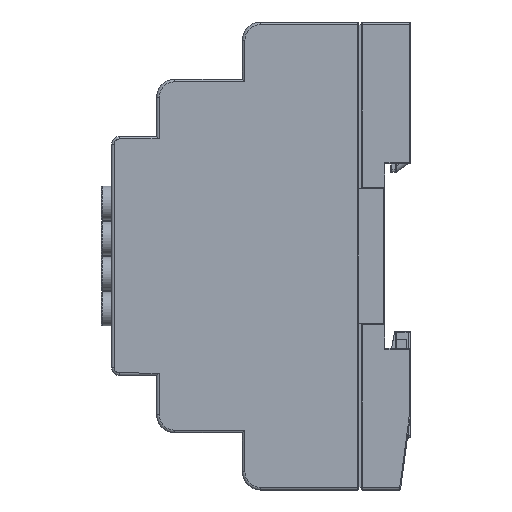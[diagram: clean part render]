
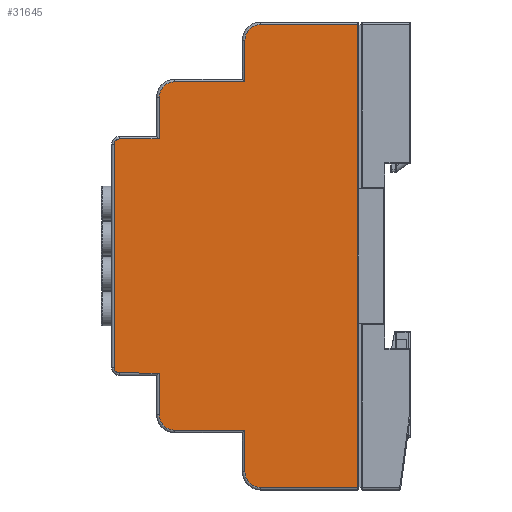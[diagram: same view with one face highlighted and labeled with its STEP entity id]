
A CAD part, left-side view. The second image highlights one B-rep face of the part: STEP entity #31645.
In plain terms, the highlighted planar face has unit normal (-1, 0, 0).
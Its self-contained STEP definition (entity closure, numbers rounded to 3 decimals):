
#374 = CARTESIAN_POINT ( 'NONE',  ( 0., 18.9, -86.5 ) ) ;
#771 = EDGE_CURVE ( 'NONE', #32055, #44207, #1587, .T. ) ;
#1168 = EDGE_CURVE ( 'NONE', #3489, #32055, #34852, .T. ) ;
#1252 = LINE ( 'NONE', #29983, #31794 ) ;
#1587 = LINE ( 'NONE', #2133, #38920 ) ;
#1992 = LINE ( 'NONE', #22928, #46575 ) ;
#2044 = DIRECTION ( 'NONE',  ( -1., 0., 0. ) ) ;
#2133 = CARTESIAN_POINT ( 'NONE',  ( 0., 18.9, -0.5 ) ) ;
#2507 = CARTESIAN_POINT ( 'NONE',  ( 0., 18.9, -89.5 ) ) ;
#3024 = ORIENTED_EDGE ( 'NONE', *, *, #38287, .T. ) ;
#3489 = VERTEX_POINT ( 'NONE', #3820 ) ;
#3820 = CARTESIAN_POINT ( 'NONE',  ( 0., 0.2, -89.5 ) ) ;
#3993 = EDGE_CURVE ( 'NONE', #41642, #39186, #35295, .T. ) ;
#4154 = CARTESIAN_POINT ( 'NONE',  ( 0., 46.05, -22.5 ) ) ;
#4275 = VERTEX_POINT ( 'NONE', #20447 ) ;
#4471 = DIRECTION ( 'NONE',  ( -1., 0., 0. ) ) ;
#5007 = LINE ( 'NONE', #12297, #12108 ) ;
#5294 = CARTESIAN_POINT ( 'NONE',  ( 0., 0.2, -0.5 ) ) ;
#6358 = DIRECTION ( 'NONE',  ( 0., 0., 1. ) ) ;
#6654 = EDGE_CURVE ( 'NONE', #38496, #10698, #19231, .T. ) ;
#8884 = VECTOR ( 'NONE', #6358, 1000. ) ;
#8943 = EDGE_CURVE ( 'NONE', #10698, #4275, #9082, .T. ) ;
#9047 = DIRECTION ( 'NONE',  ( 0., 0., -1. ) ) ;
#9082 = CIRCLE ( 'NONE', #22823, 3. ) ;
#9112 = ORIENTED_EDGE ( 'NONE', *, *, #47777, .T. ) ;
#9155 = DIRECTION ( 'NONE',  ( 0., 1., 0. ) ) ;
#9247 = ORIENTED_EDGE ( 'NONE', *, *, #771, .T. ) ;
#9687 = VERTEX_POINT ( 'NONE', #46338 ) ;
#10365 = ORIENTED_EDGE ( 'NONE', *, *, #25813, .T. ) ;
#10698 = VERTEX_POINT ( 'NONE', #37525 ) ;
#11844 = EDGE_CURVE ( 'NONE', #39186, #3489, #39800, .T. ) ;
#12074 = CARTESIAN_POINT ( 'NONE',  ( 0., 46.05, -23.5 ) ) ;
#12108 = VECTOR ( 'NONE', #9047, 1000. ) ;
#12297 = CARTESIAN_POINT ( 'NONE',  ( 0., 21.9, -86.5 ) ) ;
#12383 = ORIENTED_EDGE ( 'NONE', *, *, #29064, .T. ) ;
#12439 = LINE ( 'NONE', #32600, #38047 ) ;
#12603 = AXIS2_PLACEMENT_3D ( 'NONE', #12074, #24971, #20676 ) ;
#13174 = DIRECTION ( 'NONE',  ( -1., 0., 0. ) ) ;
#13711 = VECTOR ( 'NONE', #51327, 1000. ) ;
#14209 = DIRECTION ( 'NONE',  ( 0., 0., 1. ) ) ;
#14677 = AXIS2_PLACEMENT_3D ( 'NONE', #374, #16766, #25870 ) ;
#14738 = CARTESIAN_POINT ( 'NONE',  ( 0., 21.9, -86.5 ) ) ;
#15457 = CARTESIAN_POINT ( 'NONE',  ( 0., 38.4, -75.5 ) ) ;
#15542 = CARTESIAN_POINT ( 'NONE',  ( 0., 47.05, -23.5 ) ) ;
#16117 = CARTESIAN_POINT ( 'NONE',  ( 0., 38.4, -67.5 ) ) ;
#16647 = VECTOR ( 'NONE', #44910, 1000. ) ;
#16766 = DIRECTION ( 'NONE',  ( -1., 0., 0. ) ) ;
#16892 = VERTEX_POINT ( 'NONE', #34287 ) ;
#16942 = VERTEX_POINT ( 'NONE', #52083 ) ;
#17022 = VERTEX_POINT ( 'NONE', #4154 ) ;
#17631 = DIRECTION ( 'NONE',  ( 0., 0., -1. ) ) ;
#18142 = ORIENTED_EDGE ( 'NONE', *, *, #6654, .T. ) ;
#18782 = DIRECTION ( 'NONE',  ( 0., 1., 0. ) ) ;
#19231 = LINE ( 'NONE', #15457, #48023 ) ;
#20201 = ORIENTED_EDGE ( 'NONE', *, *, #11844, .T. ) ;
#20284 = CARTESIAN_POINT ( 'NONE',  ( 0., 35.4, -11.5 ) ) ;
#20387 = CIRCLE ( 'NONE', #50469, 1. ) ;
#20447 = CARTESIAN_POINT ( 'NONE',  ( 0., 35.4, -78.5 ) ) ;
#20676 = DIRECTION ( 'NONE',  ( 0., 0., 1. ) ) ;
#21101 = VERTEX_POINT ( 'NONE', #20284 ) ;
#21566 = EDGE_CURVE ( 'NONE', #16942, #38496, #22252, .T. ) ;
#22252 = LINE ( 'NONE', #25764, #13711 ) ;
#22823 = AXIS2_PLACEMENT_3D ( 'NONE', #37925, #13174, #41451 ) ;
#22928 = CARTESIAN_POINT ( 'NONE',  ( 0., 22.4, -78.5 ) ) ;
#23012 = EDGE_CURVE ( 'NONE', #33923, #41642, #5007, .T. ) ;
#24971 = DIRECTION ( 'NONE',  ( -1., 0., 0. ) ) ;
#25222 = CARTESIAN_POINT ( 'NONE',  ( 0., 21.9, -3.5 ) ) ;
#25226 = ORIENTED_EDGE ( 'NONE', *, *, #29287, .T. ) ;
#25675 = EDGE_LOOP ( 'NONE', ( #20201, #26080, #9247, #9112, #31801, #10365, #12383, #48650, #41578, #41148, #3024, #42997, #48599, #18142, #34965, #25226, #40082, #37449 ) ) ;
#25764 = CARTESIAN_POINT ( 'NONE',  ( 0., 38.9, -67.5 ) ) ;
#25813 = EDGE_CURVE ( 'NONE', #16892, #21101, #40329, .T. ) ;
#25870 = DIRECTION ( 'NONE',  ( 0., 0., 1. ) ) ;
#26080 = ORIENTED_EDGE ( 'NONE', *, *, #1168, .T. ) ;
#26743 = EDGE_CURVE ( 'NONE', #9687, #17022, #50081, .T. ) ;
#27211 = AXIS2_PLACEMENT_3D ( 'NONE', #30770, #2044, #40693 ) ;
#27669 = EDGE_CURVE ( 'NONE', #44976, #9687, #1252, .T. ) ;
#29064 = EDGE_CURVE ( 'NONE', #21101, #44976, #43105, .T. ) ;
#29287 = EDGE_CURVE ( 'NONE', #4275, #33923, #1992, .T. ) ;
#29337 = CARTESIAN_POINT ( 'NONE',  ( 0., 47.05, -66.5 ) ) ;
#29983 = CARTESIAN_POINT ( 'NONE',  ( 0., 38.4, -22. ) ) ;
#30601 = CARTESIAN_POINT ( 'NONE',  ( 0., 18.9, -3.5 ) ) ;
#30770 = CARTESIAN_POINT ( 'NONE',  ( 0., 18.9, -3.5 ) ) ;
#31425 = CARTESIAN_POINT ( 'NONE',  ( 0., 0., -89.5 ) ) ;
#31645 = ADVANCED_FACE ( 'NONE', ( #34377 ), #51347, .T. ) ;
#31761 = CARTESIAN_POINT ( 'NONE',  ( 0., 21.9, -78.5 ) ) ;
#31794 = VECTOR ( 'NONE', #17631, 1000. ) ;
#31801 = ORIENTED_EDGE ( 'NONE', *, *, #43827, .T. ) ;
#31823 = CARTESIAN_POINT ( 'NONE',  ( 0., 38.4, -14.5 ) ) ;
#31917 = CARTESIAN_POINT ( 'NONE',  ( 0., 47.05, -66.5 ) ) ;
#32055 = VERTEX_POINT ( 'NONE', #5294 ) ;
#32132 = DIRECTION ( 'NONE',  ( -1., 0., 0. ) ) ;
#32600 = CARTESIAN_POINT ( 'NONE',  ( 0., 21.9, -11. ) ) ;
#33923 = VERTEX_POINT ( 'NONE', #31761 ) ;
#34047 = CIRCLE ( 'NONE', #12603, 1. ) ;
#34287 = CARTESIAN_POINT ( 'NONE',  ( 0., 21.9, -11.5 ) ) ;
#34377 = FACE_OUTER_BOUND ( 'NONE', #25675, .T. ) ;
#34676 = DIRECTION ( 'NONE',  ( 0., -1., 0. ) ) ;
#34852 = LINE ( 'NONE', #43219, #8884 ) ;
#34965 = ORIENTED_EDGE ( 'NONE', *, *, #8943, .T. ) ;
#35295 = CIRCLE ( 'NONE', #14677, 3. ) ;
#35685 = VERTEX_POINT ( 'NONE', #31917 ) ;
#35887 = DIRECTION ( 'NONE',  ( 0., 0., -1. ) ) ;
#36405 = DIRECTION ( 'NONE',  ( 0., 0., -1. ) ) ;
#37281 = CARTESIAN_POINT ( 'NONE',  ( 0., 46.05, -66.5 ) ) ;
#37449 = ORIENTED_EDGE ( 'NONE', *, *, #3993, .T. ) ;
#37525 = CARTESIAN_POINT ( 'NONE',  ( 0., 38.4, -75.5 ) ) ;
#37925 = CARTESIAN_POINT ( 'NONE',  ( 0., 35.4, -75.5 ) ) ;
#37959 = AXIS2_PLACEMENT_3D ( 'NONE', #52634, #32132, #48580 ) ;
#38047 = VECTOR ( 'NONE', #36405, 1000. ) ;
#38287 = EDGE_CURVE ( 'NONE', #52647, #35685, #46835, .T. ) ;
#38496 = VERTEX_POINT ( 'NONE', #16117 ) ;
#38749 = DIRECTION ( 'NONE',  ( 0., 0., -1. ) ) ;
#38920 = VECTOR ( 'NONE', #18782, 1000. ) ;
#39186 = VERTEX_POINT ( 'NONE', #2507 ) ;
#39800 = LINE ( 'NONE', #31425, #41346 ) ;
#40082 = ORIENTED_EDGE ( 'NONE', *, *, #23012, .T. ) ;
#40110 = CIRCLE ( 'NONE', #27211, 3. ) ;
#40329 = LINE ( 'NONE', #44365, #16647 ) ;
#40693 = DIRECTION ( 'NONE',  ( 0., 0., 1. ) ) ;
#41148 = ORIENTED_EDGE ( 'NONE', *, *, #47212, .T. ) ;
#41346 = VECTOR ( 'NONE', #34676, 1000. ) ;
#41451 = DIRECTION ( 'NONE',  ( 0., 0., 1. ) ) ;
#41578 = ORIENTED_EDGE ( 'NONE', *, *, #26743, .T. ) ;
#41594 = DIRECTION ( 'NONE',  ( 0., 0., 1. ) ) ;
#41642 = VERTEX_POINT ( 'NONE', #14738 ) ;
#42523 = CARTESIAN_POINT ( 'NONE',  ( 0., 46.05, -22.5 ) ) ;
#42736 = VECTOR ( 'NONE', #38749, 1000. ) ;
#42997 = ORIENTED_EDGE ( 'NONE', *, *, #49742, .T. ) ;
#43105 = CIRCLE ( 'NONE', #37959, 3. ) ;
#43219 = CARTESIAN_POINT ( 'NONE',  ( 0., 0.2, -0.5 ) ) ;
#43282 = DIRECTION ( 'NONE',  ( -1., 0., 0. ) ) ;
#43827 = EDGE_CURVE ( 'NONE', #49402, #16892, #12439, .T. ) ;
#44207 = VERTEX_POINT ( 'NONE', #52222 ) ;
#44365 = CARTESIAN_POINT ( 'NONE',  ( 0., 35.4, -11.5 ) ) ;
#44910 = DIRECTION ( 'NONE',  ( 0., 1., 0. ) ) ;
#44976 = VERTEX_POINT ( 'NONE', #31823 ) ;
#45914 = AXIS2_PLACEMENT_3D ( 'NONE', #30601, #43282, #14209 ) ;
#46338 = CARTESIAN_POINT ( 'NONE',  ( 0., 38.4, -22.5 ) ) ;
#46374 = VECTOR ( 'NONE', #9155, 1000. ) ;
#46575 = VECTOR ( 'NONE', #46651, 1000. ) ;
#46651 = DIRECTION ( 'NONE',  ( 0., -1., 0. ) ) ;
#46835 = LINE ( 'NONE', #29337, #42736 ) ;
#47212 = EDGE_CURVE ( 'NONE', #17022, #52647, #34047, .T. ) ;
#47777 = EDGE_CURVE ( 'NONE', #44207, #49402, #40110, .T. ) ;
#48023 = VECTOR ( 'NONE', #35887, 1000. ) ;
#48580 = DIRECTION ( 'NONE',  ( 0., 0., 1. ) ) ;
#48599 = ORIENTED_EDGE ( 'NONE', *, *, #21566, .T. ) ;
#48650 = ORIENTED_EDGE ( 'NONE', *, *, #27669, .T. ) ;
#49402 = VERTEX_POINT ( 'NONE', #25222 ) ;
#49742 = EDGE_CURVE ( 'NONE', #35685, #16942, #20387, .T. ) ;
#50081 = LINE ( 'NONE', #42523, #46374 ) ;
#50469 = AXIS2_PLACEMENT_3D ( 'NONE', #37281, #4471, #41594 ) ;
#51327 = DIRECTION ( 'NONE',  ( 0., -1., 0. ) ) ;
#51347 = PLANE ( 'NONE',  #45914 ) ;
#52083 = CARTESIAN_POINT ( 'NONE',  ( 0., 46.05, -67.5 ) ) ;
#52222 = CARTESIAN_POINT ( 'NONE',  ( 0., 18.9, -0.5 ) ) ;
#52634 = CARTESIAN_POINT ( 'NONE',  ( 0., 35.4, -14.5 ) ) ;
#52647 = VERTEX_POINT ( 'NONE', #15542 ) ;
